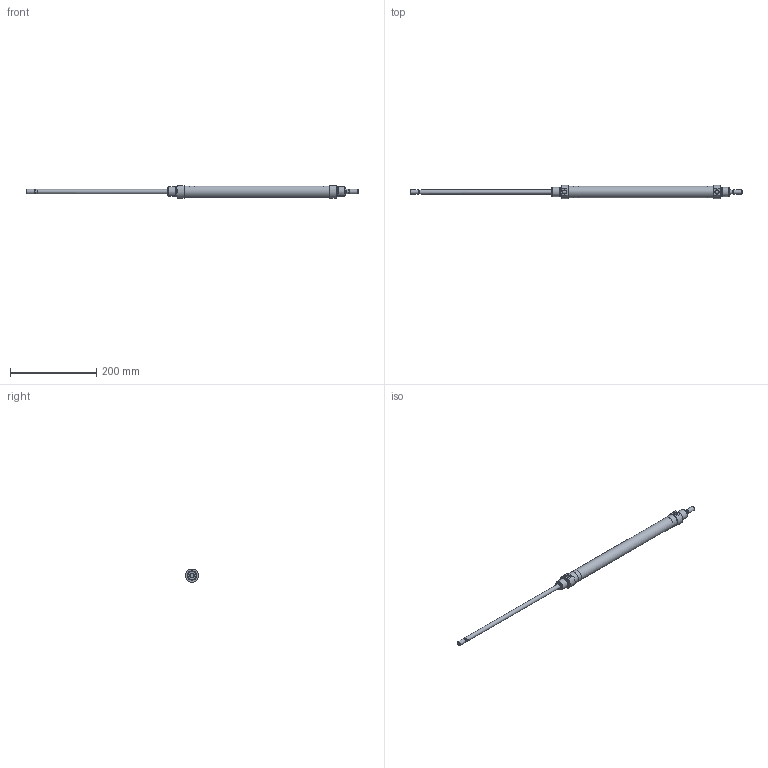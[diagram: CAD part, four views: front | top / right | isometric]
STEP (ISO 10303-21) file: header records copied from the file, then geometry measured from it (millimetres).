
FILE_DESCRIPTION( ( 'STEP AP203' ), '1' );
FILE_NAME( '//expscmdclustefs.cadenas.external/client_exchange/iodir/jobs/output/wkb68469787_no0/STEP/M101-025-0300-M__0__2_03.stp', ' ', ( ' ' ), ( ' ' ), 'PSStep 15.0.47', 'PARTsolutions', ' ' );
FILE_SCHEMA( ( 'CONFIG_CONTROL_DESIGN' ) );
Length unit declared in the file: millimetre
Products named in the file (3): M101-025-0300-M [0]; HI_M101-025-0300-M-[0]-z; HI_M101-025-0300-M-[0]-k
Assembly tree (2 placements, depth 2):
  M101-025-0300-M [0]
    HI_M101-025-0300-M-[0]-z
    HI_M101-025-0300-M-[0]-k
Bounding box: 769 x 31 x 28.79 mm (x, y, z)
Volume: 129993.5 mm3; surface area: 90245.8 mm2
Topology: 2 solids, 2 shells, 63 faces, 123 edges, 74 vertices
Faces by surface type: plane 28, cylinder 23, cone 10, torus 2
Full cylindrical faces by diameter (mm): 8.16 x2, 8.566 x2, 10 x6, 20.16 x4, 22 x4, 25 x2, 26.6 x1
Entity records: 1700 total; most frequent: CARTESIAN_POINT 390, DIRECTION 276, ORIENTED_EDGE 176, AXIS2_PLACEMENT_3D 124, EDGE_LOOP 112, EDGE_CURVE 88, FACE_OUTER_BOUND 86, VERTEX_POINT 72
